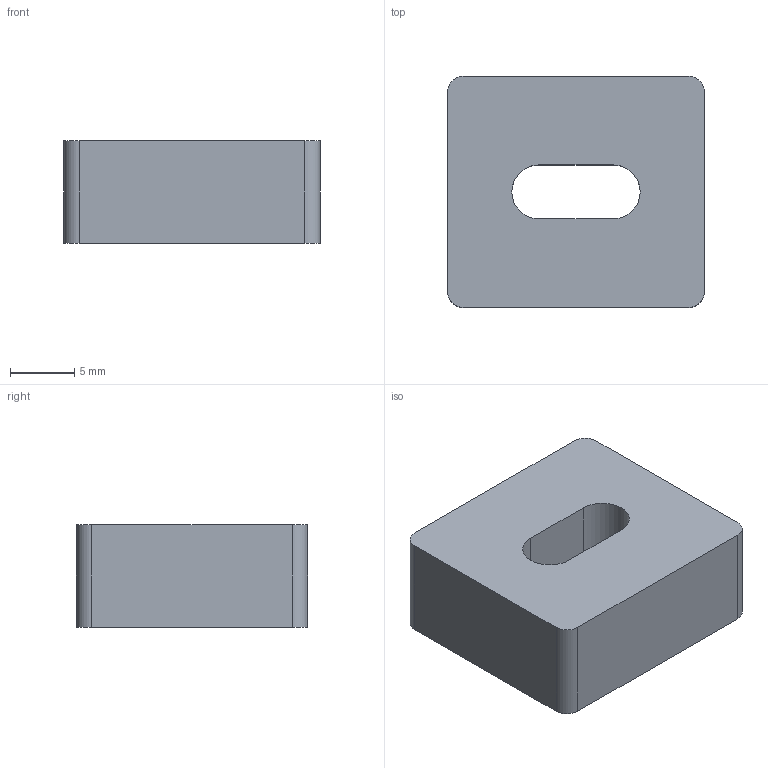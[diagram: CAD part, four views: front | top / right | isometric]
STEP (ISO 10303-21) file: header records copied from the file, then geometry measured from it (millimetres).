
FILE_DESCRIPTION(('Open CASCADE Model'),'2;1');
FILE_NAME('Open CASCADE Shape Model','2026-09-20T04:25:33',('Author'),( 'Open CASCADE'),'Open CASCADE STEP processor 7.9','Open CASCADE 7.9' ,'Unknown');
FILE_SCHEMA(('AUTOMOTIVE_DESIGN { 1 0 10303 214 1 1 1 1 }'));
Length unit declared in the file: millimetre
Products named in the file (1): Open CASCADE STEP translator 7.9 11
Bounding box: 20 x 18 x 8 mm (x, y, z)
Volume: 2564.4 mm3; surface area: 1431 mm2
Topology: 1 solids, 1 shells, 14 faces, 36 edges, 24 vertices
Faces by surface type: plane 8, cylinder 6
Entity records: 934 total; most frequent: CARTESIAN_POINT 199, DIRECTION 138, LINE 80, VECTOR 80, ORIENTED_EDGE 72, PCURVE 72, DEFINITIONAL_REPRESENTATION 72, EDGE_CURVE 36
